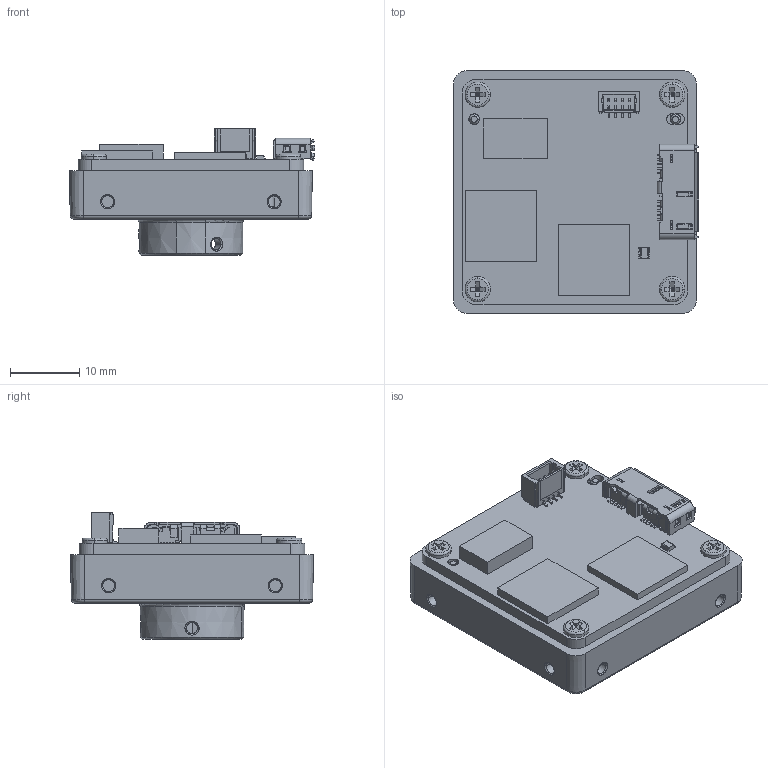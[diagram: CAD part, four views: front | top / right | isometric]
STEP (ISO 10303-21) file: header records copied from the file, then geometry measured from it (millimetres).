
FILE_DESCRIPTION((''),'2;1');
FILE_NAME('00-MV-CB060-10UM-S_ASM','2023-02-21T14:16:33',('zhangfeixiang8'),(''),'CREO PARAMETRIC BY PTC INC, 2020044','CREO PARAMETRIC BY PTC INC, 2020044','');
FILE_SCHEMA(('CONFIG_CONTROL_DESIGN'));
Products named in the file (1): 00-MV-CB060-10UM-S_ASM
Bounding box: 35.32 x 35 x 18.22 mm (x, y, z)
Volume: 10734.1 mm3; surface area: 6443.4 mm2
Topology: 1 solids, 34 shells, 1752 faces, 5104 edges, 3288 vertices
Faces by surface type: plane 1005, cylinder 520, cone 108, torus 58, bspline 57, sphere 4
Entity records: 64168 total; most frequent: CARTESIAN_POINT 17483, ORIENTED_EDGE 10100, DIRECTION 9378, EDGE_CURVE 5100, VECTOR 3464, LINE 3464, VERTEX_POINT 3288, AXIS2_PLACEMENT_3D 2957
